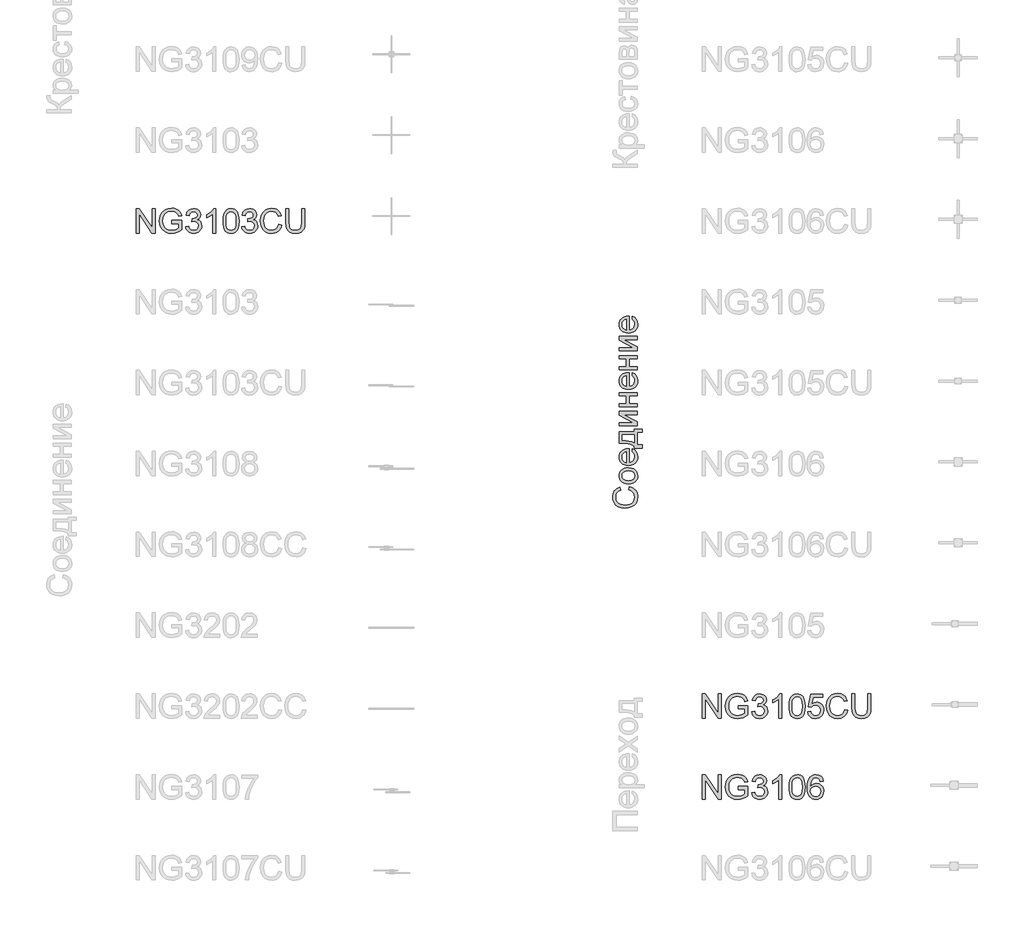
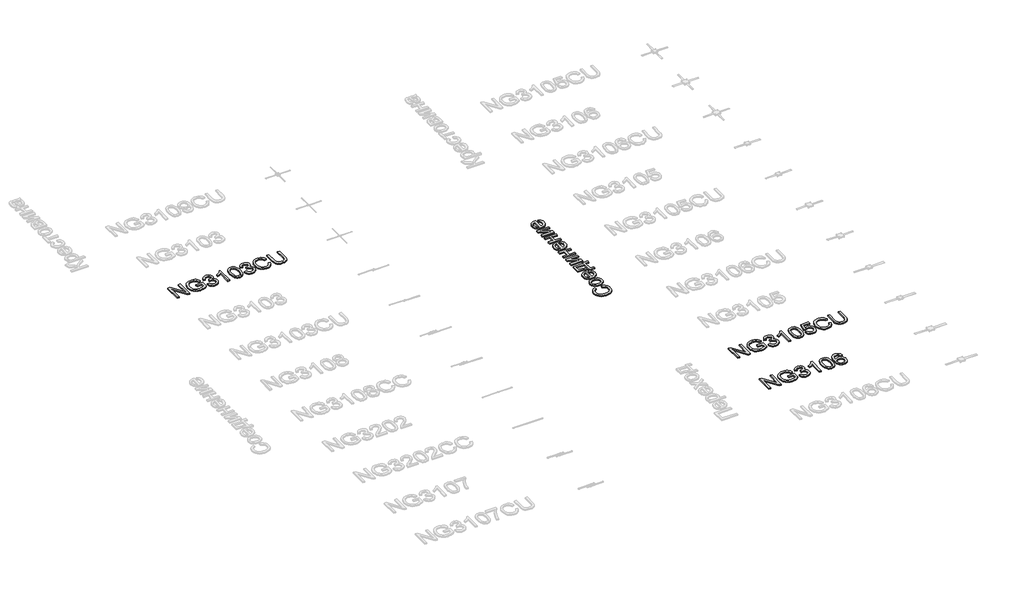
# One storey, part 112 of 124: 4 proxies.
"""IFC4 building model written with IfcOpenShell, lengths in millimetres."""

from ifc_helpers import new_model, si_unit, origin, origin_with_axes, place, context, project, spatial, polyline, outline, extrude, element, save

model = new_model("IFC4")

# Units and contexts
model_context = context("Model", 3, world=origin())
ifc_project = project(units=[si_unit("LENGTHUNIT", "METRE", prefix="MILLI")], contexts=[model_context])

# Site, building, storey
site = spatial("IfcSite", under=ifc_project)
building = spatial("IfcBuilding", under=site)
storey = spatial("IfcBuildingStorey", under=building, Name="Этаж 01", Elevation=0.0)

# Proxies
placement = place(None, origin())
element("IfcBuildingElementProxy", 1, Name="300", ObjectType="300", at=placement, inside=storey, context=model_context, shape_type="SweptSolid", body=[
    extrude(outline(polyline([(55790.0490062, -19696.5503235), (55799.7610909, -19658.8792072), (55823.1882762, -19666.3334161), (55843.65861, -19676.2616314), (55861.1720922, -19688.6638532), (55875.7287229, -19703.5400814), (55887.1721522, -19720.5546237), (55895.3460303, -19739.3717877), (55900.2503572, -19759.9915735), (55901.8851328, -19782.4139811), (55896.9371199, -19826.1091651), (55882.0930814, -19860.8096343), (55857.8680521, -19887.4075026), (55824.7770666, -19906.7948837), (55785.8735456, -19918.6314869), (55744.2109096, -19922.5770213), (55700.2674053, -19918.1164521), (55662.3203775, -19904.7347445), (55631.5746398, -19883.1308744), (55609.2350056, -19854.0038174), (55595.6325688, -19819.4596981), (55591.0984232, -19781.6046408), (55596.9661411, -19740.3006897), (55604.3007883, -19722.3319535), (55614.5692945, -19706.1520435), (55627.5003467, -19692.0276742), (55642.8226318, -19680.2255599), (55680.6409009, -19663.5880967), (55689.6172216, -19701.259213), (55662.1456336, -19714.3190238), (55643.3008784, -19732.1613006), (55632.4023743, -19755.0067725), (55628.7695396, -19783.0761687), (55632.7978474, -19815.4313902), (55644.8827709, -19842.0108644), (55663.7551173, -19862.1799947), (55688.1456936, -19875.3041849), (55715.7184491, -19882.505475), (55744.1373332, -19884.905905), (55778.93897, -19882.0640166), (55809.0317172, -19873.5383513), (55833.2659436, -19859.0070125), (55850.492018, -19838.1481034), (55860.7835169, -19813.1413248), (55864.2140165, -19786.1663775), (55859.5419151, -19754.721664), (55845.5256111, -19728.5192689), (55822.3122572, -19708.7364146), (55790.0490062, -19696.5503235)])), origin_with_axes(), (0.0, 0.0, 1.0), 20.0),
    extrude(outline(polyline([(55786.5173391, -19621.2080909), (55757.8547331, -19619.1709443), (55733.1560557, -19613.0595047), (55712.4213067, -19602.8737719), (55695.6504863, -19588.6137461), (55684.9313246, -19574.2571512), (55677.2747806, -19558.4106343), (55672.6808542, -19541.0741953), (55671.1495454, -19522.2478342), (55673.0142473, -19501.4648007), (55678.6083529, -19482.6729285), (55687.9318622, -19465.8722177), (55700.9847752, -19451.0626681), (55717.3256336, -19438.9754453), (55736.5129789, -19430.3417147), (55758.5468111, -19425.1614764), (55783.4271303, -19423.4347303), (55821.4845227, -19426.4881508), (55850.4552298, -19435.6484125), (55872.1510705, -19450.6488008), (55888.3838636, -19471.2226014), (55898.5098155, -19495.659163), (55901.8851328, -19522.2478342), (55900.0273287, -19543.3343703), (55894.4539165, -19562.3009864), (55885.1648961, -19579.1476825), (55872.1602676, -19593.8744586), (55855.6607601, -19605.8329227), (55835.8871028, -19614.3746828), (55812.8392958, -19619.4997388), (55786.5173391, -19621.2080909)]), holes=[polyline([(55786.4437627, -19583.5369746), (55820.5372266, -19579.1775729), (55844.8266353, -19566.099368), (55859.3671712, -19546.4176812), (55864.2140165, -19522.2478342), (55859.33958, -19498.1883517), (55844.7162707, -19478.5434531), (55820.1049652, -19465.4652482), (55785.2665403, -19461.1058466), (55752.1663578, -19465.4928393), (55728.2080429, -19478.6538177), (55713.667507, -19498.3263074), (55708.8206617, -19522.2478342), (55713.6491129, -19546.4176812), (55728.1344665, -19566.099368), (55752.3686929, -19579.1775729), (55786.4437627, -19583.5369746)])]), origin_with_axes(), (0.0, 0.0, 1.0), 20.0),
    extrude(outline(polyline([(55831.2517897, -19226.102828), (55835.9606792, -19189.1674757), (55863.7909522, -19202.4756069), (55884.594679, -19223.7115951), (55897.5625193, -19252.3971936), (55901.8851328, -19288.054156), (55900.0204309, -19311.4284583), (55894.4263253, -19332.2551777), (55885.102816, -19350.5343144), (55872.049903, -19366.2658682), (55855.6308697, -19378.9164103), (55836.2089996, -19387.9525118), (55813.7842927, -19393.3741727), (55788.3567491, -19395.181393), (55762.066982, -19393.3557786), (55738.8950148, -19387.8789354), (55718.8408475, -19378.7508634), (55701.9044802, -19365.9715626), (55688.4491962, -19350.2813955), (55678.8382791, -19332.4207246), (55673.0717288, -19312.38955), (55671.1495454, -19290.1878716), (55673.0671303, -19268.7012638), (55678.819885, -19249.2701967), (55688.4078095, -19231.8946702), (55701.8309038, -19216.5746844), (55718.7304829, -19204.0689958), (55738.747862, -19195.1363611), (55761.883041, -19189.7767803), (55788.1360199, -19187.9902533), (55798.2895629, -19188.2109825), (55798.2895629, -19357.5102767), (55826.4877179, -19350.9895684), (55847.2178683, -19335.8420272), (55859.9649794, -19313.9806396), (55864.2140165, -19287.318392), (55862.2458478, -19267.2688233), (55856.3413418, -19250.3830397), (55846.1326164, -19236.6610413), (55831.2517897, -19226.102828)]), holes=[polyline([(55760.6184466, -19357.5102767), (55760.6184466, -19225.6613696), (55740.7160307, -19230.7565353), (55726.4789975, -19240.7445314), (55713.2352456, -19262.7070866), (55708.8206617, -19290.3350244), (55712.3431318, -19315.7280791), (55722.9105421, -19336.724944), (55739.3824585, -19351.3206621), (55760.6184466, -19357.5102767)])]), origin_with_axes(), (0.0, 0.0, 1.0), 20.0),
    extrude(outline(polyline([(55675.8584349, -19117.3569103), (55675.8584349, -18976.0902241), (55859.5051269, -18976.0902241), (55859.5051269, -18947.8368869), (55958.3918072, -18947.8368869), (55958.3918072, -18985.5080032), (55897.1762432, -18985.5080032), (55897.1762432, -19140.901358), (55958.3918072, -19140.901358), (55958.3918072, -19178.5724743), (55859.5051269, -19178.5724743), (55859.5051269, -19155.0280266), (55828.5754482, -19137.9123167), (55787.6577733, -19125.9285608), (55736.7521022, -19119.0767586), (55675.8584349, -19117.3569103)]), holes=[polyline([(55713.5295512, -19084.3946835), (55759.6527564, -19087.4848923), (55799.3564207, -19093.2238514), (55832.6405442, -19101.6115609), (55859.5051269, -19112.6480207), (55859.5051269, -19013.7613404), (55713.5295512, -19013.7613404), (55713.5295512, -19084.3946835)])]), origin_with_axes(), (0.0, 0.0, 1.0), 20.0),
    extrude(outline(polyline([(55675.8584349, -18905.456881), (55675.8584349, -18867.7857647), (55844.6426943, -18867.7857647), (55675.8584349, -18775.2266547), (55675.8584349, -18726.5190786), (55897.1762432, -18726.5190786), (55897.1762432, -18764.1901949), (55729.4220534, -18764.1901949), (55897.1762432, -18856.1606937), (55897.1762432, -18905.456881), (55675.8584349, -18905.456881)])), origin_with_axes(), (0.0, 0.0, 1.0), 20.0),
    extrude(outline(polyline([(55675.8584349, -18670.0124041), (55675.8584349, -18632.3412878), (55760.6184466, -18632.3412878), (55760.6184466, -18533.4546075), (55675.8584349, -18533.4546075), (55675.8584349, -18495.7834912), (55897.1762432, -18495.7834912), (55897.1762432, -18533.4546075), (55798.2895629, -18533.4546075), (55798.2895629, -18632.3412878), (55897.1762432, -18632.3412878), (55897.1762432, -18670.0124041), (55675.8584349, -18670.0124041)])), origin_with_axes(), (0.0, 0.0, 1.0), 20.0),
    extrude(outline(polyline([(55831.2517897, -18284.3249204), (55835.9606792, -18247.3895681), (55863.7909522, -18260.6976992), (55884.594679, -18281.9336874), (55897.5625193, -18310.619286), (55901.8851328, -18346.2762484), (55900.0204309, -18369.6505506), (55894.4263253, -18390.4772701), (55885.102816, -18408.7564067), (55872.049903, -18424.4879605), (55855.6308697, -18437.1385027), (55836.2089996, -18446.1746042), (55813.7842927, -18451.5962651), (55788.3567491, -18453.4034854), (55762.066982, -18451.577871), (55738.8950148, -18446.1010278), (55718.8408475, -18436.9729558), (55701.9044802, -18424.193655), (55688.4491962, -18408.5034879), (55678.8382791, -18390.642817), (55673.0717288, -18370.6116424), (55671.1495454, -18348.4099639), (55673.0671303, -18326.9233562), (55678.819885, -18307.492289), (55688.4078095, -18290.1167625), (55701.8309038, -18274.7967767), (55718.7304829, -18262.2910881), (55738.747862, -18253.3584534), (55761.883041, -18247.9988726), (55788.1360199, -18246.2123457), (55798.2895629, -18246.4330749), (55798.2895629, -18415.7323691), (55826.4877179, -18409.2116607), (55847.2178683, -18394.0641195), (55859.9649794, -18372.202732), (55864.2140165, -18345.5404844), (55862.2458478, -18325.4909156), (55856.3413418, -18308.6051321), (55846.1326164, -18294.8831336), (55831.2517897, -18284.3249204)]), holes=[polyline([(55760.6184466, -18415.7323691), (55760.6184466, -18283.883462), (55740.7160307, -18288.9786276), (55726.4789975, -18298.9666238), (55713.2352456, -18320.9291789), (55708.8206617, -18348.5571167), (55712.3431318, -18373.9501715), (55722.9105421, -18394.9470363), (55739.3824585, -18409.5427545), (55760.6184466, -18415.7323691)])]), origin_with_axes(), (0.0, 0.0, 1.0), 20.0),
    extrude(outline(polyline([(55675.8584349, -18208.5412294), (55675.8584349, -18170.8701131), (55760.6184466, -18170.8701131), (55760.6184466, -18071.9834328), (55675.8584349, -18071.9834328), (55675.8584349, -18034.3123165), (55897.1762432, -18034.3123165), (55897.1762432, -18071.9834328), (55798.2895629, -18071.9834328), (55798.2895629, -18170.8701131), (55897.1762432, -18170.8701131), (55897.1762432, -18208.5412294), (55675.8584349, -18208.5412294)])), origin_with_axes(), (0.0, 0.0, 1.0), 20.0),
    extrude(outline(polyline([(55675.8584349, -17977.805642), (55675.8584349, -17940.1345257), (55844.6426943, -17940.1345257), (55675.8584349, -17847.5754157), (55675.8584349, -17798.8678395), (55897.1762432, -17798.8678395), (55897.1762432, -17836.5389559), (55729.4220534, -17836.5389559), (55897.1762432, -17928.5094546), (55897.1762432, -17977.805642), (55675.8584349, -17977.805642)])), origin_with_axes(), (0.0, 0.0, 1.0), 20.0),
    extrude(outline(polyline([(55831.2517897, -17587.4092687), (55835.9606792, -17550.4739164), (55863.7909522, -17563.7820476), (55884.594679, -17585.0180358), (55897.5625193, -17613.7036343), (55901.8851328, -17649.3605967), (55900.0204309, -17672.734899), (55894.4263253, -17693.5616184), (55885.102816, -17711.8407551), (55872.049903, -17727.5723089), (55855.6308697, -17740.222851), (55836.2089996, -17749.2589525), (55813.7842927, -17754.6806134), (55788.3567491, -17756.4878337), (55762.066982, -17754.6622193), (55738.8950148, -17749.1853761), (55718.8408475, -17740.0573041), (55701.9044802, -17727.2780033), (55688.4491962, -17711.5878362), (55678.8382791, -17693.7271653), (55673.0717288, -17673.6959907), (55671.1495454, -17651.4943123), (55673.0671303, -17630.0077045), (55678.819885, -17610.5766374), (55688.4078095, -17593.2011109), (55701.8309038, -17577.881125), (55718.7304829, -17565.3754365), (55738.747862, -17556.4428018), (55761.883041, -17551.083221), (55788.1360199, -17549.296694), (55798.2895629, -17549.5174232), (55798.2895629, -17718.8167174), (55826.4877179, -17712.296009), (55847.2178683, -17697.1484679), (55859.9649794, -17675.2870803), (55864.2140165, -17648.6248327), (55862.2458478, -17628.575264), (55856.3413418, -17611.6894804), (55846.1326164, -17597.967482), (55831.2517897, -17587.4092687)]), holes=[polyline([(55760.6184466, -17718.8167174), (55760.6184466, -17586.9678103), (55740.7160307, -17592.062976), (55726.4789975, -17602.0509721), (55713.2352456, -17624.0135272), (55708.8206617, -17651.6414651), (55712.3431318, -17677.0345198), (55722.9105421, -17698.0313847), (55739.3824585, -17712.6271028), (55760.6184466, -17718.8167174)])]), origin_with_axes(), (0.0, 0.0, 1.0), 20.0),
])
element("IfcBuildingElementProxy", 2, Name="300", ObjectType="300", at=placement, inside=storey, context=model_context, shape_type="SweptSolid", body=[
    extrude(outline(polyline([(49699.8220677, -16519.5141033), (49699.8220677, -16218.1451728), (49740.1419344, -16218.1451728), (49897.5954283, -16456.9005877), (49897.5954283, -16218.1451728), (49935.2665446, -16218.1451728), (49935.2665446, -16519.5141033), (49894.9466779, -16519.5141033), (49737.493184, -16280.685112), (49737.493184, -16519.5141033), (49699.8220677, -16519.5141033)])), origin_with_axes(), (0.0, 0.0, 1.0), 20.0),
    extrude(outline(polyline([(50142.4576843, -16401.7918648), (50142.4576843, -16364.1207485), (50264.8888123, -16364.1207485), (50264.8888123, -16476.7662154), (50235.1363559, -16497.4595776), (50204.4458005, -16512.3036162), (50172.8907223, -16521.2431486), (50140.5446979, -16524.2229928), (50098.2842537, -16519.4865121), (50060.0889056, -16505.27707), (50028.3590835, -16482.0913073), (50005.4952175, -16450.4258646), (49991.6720515, -16412.4420486), (49987.0643295, -16370.301166), (49991.6536574, -16327.8567808), (50005.4216411, -16288.3738457), (50027.7980634, -16255.2552691), (50058.2127074, -16231.9039594), (50095.2584243, -16218.0532023), (50137.5280656, -16213.4362833), (50168.5589118, -16216.1126248), (50196.4627612, -16224.1416493), (50219.9612236, -16236.9439428), (50237.7759092, -16253.9400909), (50250.9552817, -16275.9486313), (50260.5478047, -16303.7881013), (50225.8197444, -16313.5737624), (50218.0666313, -16293.7173317), (50208.6396552, -16278.7353374), (50196.1684556, -16267.4413602), (50179.282672, -16258.6489805), (50159.1503298, -16252.9927948), (50136.9394544, -16251.1073996), (50110.9393944, -16253.1399476), (50088.7101248, -16259.2375917), (50070.3344191, -16268.6369766), (50055.8950508, -16280.5747474), (50036.5076697, -16309.6006368), (50027.6785018, -16338.037915), (50024.7354458, -16368.7560616), (50028.27631, -16404.780906), (50038.8989026, -16434.4229978), (50056.2813269, -16457.4708048), (50080.1016861, -16473.7127949), (50107.9779443, -16483.3421061), (50137.5280656, -16486.5518765), (50163.6200961, -16484.1330524), (50189.0683331, -16476.87658), (50211.1688439, -16466.8793868), (50227.217696, -16456.2384001), (50227.217696, -16401.7918648), (50142.4576843, -16401.7918648)])), origin_with_axes(), (0.0, 0.0, 1.0), 20.0),
    extrude(outline(polyline([(50311.9777077, -16439.4629811), (50349.648824, -16434.7540916), (50358.0825187, -16458.427298), (50370.4341567, -16474.4117707), (50387.3107432, -16483.51685), (50409.3192836, -16486.5518765), (50435.1445997, -16482.3764158), (50455.0838038, -16469.8500339), (50467.8309149, -16451.1616286), (50472.079952, -16428.5000977), (50467.8677031, -16406.988198), (50455.2309566, -16389.5413944), (50436.1010928, -16377.9807027), (50412.4094924, -16374.1271388), (50385.9955651, -16378.2474171), (50390.1894198, -16340.5763008), (50396.2226846, -16341.0177592), (50418.792245, -16338.3138265), (50438.9705724, -16330.2020285), (50453.2076056, -16316.4800301), (50457.9532834, -16296.9454962), (50454.5135867, -16280.6759149), (50444.1944967, -16267.4781484), (50428.4491473, -16258.7317539), (50408.7306724, -16255.8162891), (50388.9754093, -16258.7593451), (50372.8253897, -16267.588513), (50361.0347717, -16282.3037928), (50354.3577135, -16302.9051845), (50316.6865972, -16298.196295), (50327.7782394, -16264.3695455), (50347.5151084, -16239.1144465), (50374.5176468, -16223.3874912), (50407.4062972, -16218.1451728), (50431.0887007, -16220.7295438), (50452.8397236, -16228.4826569), (50471.1786411, -16240.7147332), (50484.624728, -16256.7359941), (50492.8744817, -16275.1944732), (50495.6243997, -16294.7382042), (50493.0124375, -16312.948363), (50485.176551, -16329.4662646), (50472.2271048, -16343.5377509), (50454.2744634, -16354.4086638), (50477.8556993, -16363.9368075), (50495.3300941, -16380.1604035), (50506.1458247, -16402.196535), (50509.7510683, -16429.1622852), (50507.9484465, -16448.2737549), (50502.5405812, -16465.8769084), (50493.5274723, -16481.9717457), (50480.9091199, -16496.5582668), (50465.536251, -16508.6615844), (50448.2595928, -16517.3068113), (50429.0791453, -16522.4939474), (50407.9949084, -16524.2229928), (50388.9386211, -16522.7468663), (50371.5745909, -16518.3184868), (50355.9028179, -16510.9378542), (50341.9233021, -16500.6049687), (50330.201662, -16487.9268354), (50321.3035162, -16473.5104598), (50315.2288648, -16457.3558417), (50311.9777077, -16439.4629811)])), origin_with_axes(), (0.0, 0.0, 1.0), 20.0),
    extrude(outline(polyline([(50683.9799812, -16519.5141033), (50646.3088649, -16519.5141033), (50646.3088649, -16284.6582375), (50610.6243114, -16310.0788834), (50570.9666323, -16329.0983826), (50570.9666323, -16293.4874054), (50600.5535417, -16277.3925681), (50626.1857197, -16258.2443103), (50646.3916383, -16237.8820419), (50659.6997695, -16218.1451728), (50683.9799812, -16218.1451728), (50683.9799812, -16519.5141033)])), origin_with_axes(), (0.0, 0.0, 1.0), 20.0),
    extrude(outline(polyline([(50773.4488824, -16371.2576592), (50776.2171944, -16323.0191326), (50784.5221305, -16284.5478729), (50798.2809171, -16255.2552691), (50817.4107808, -16234.5527098), (50842.0496775, -16222.2470571), (50872.3355627, -16218.1451728), (50895.5489166, -16220.573194), (50916.3342493, -16227.8572575), (50933.7166736, -16239.7122548), (50946.7213021, -16255.8530773), (50956.5437514, -16276.1417694), (50964.3796379, -16300.4403751), (50969.5115917, -16331.2964775), (50971.222243, -16371.2576592), (50968.4815222, -16419.2202743), (50960.2593596, -16457.5995635), (50946.5833464, -16486.9197585), (50927.4810738, -16507.7050912), (50902.7869949, -16520.0935174), (50872.3355627, -16524.2229928), (50851.5870182, -16522.4295681), (50833.1929184, -16517.0492939), (50817.1532634, -16508.0821703), (50803.4680532, -16495.5281972), (50790.334666, -16472.8344766), (50780.9536751, -16444.5581467), (50775.3250806, -16410.6992076), (50773.4488824, -16371.2576592)]), holes=[polyline([(50811.1199987, -16371.1840828), (50815.5345827, -16430.4406752), (50821.0528126, -16450.7086739), (50828.7783345, -16464.7364742), (50848.4968094, -16481.0980259), (50872.3355627, -16486.5518765), (50896.174316, -16481.0796318), (50915.892791, -16464.6628978), (50923.6183128, -16450.6121048), (50929.1365428, -16430.3487047), (50933.5511267, -16371.1840828), (50929.2836956, -16313.2610627), (50923.9494066, -16293.0597426), (50916.4814021, -16278.6985492), (50896.7997154, -16261.5368541), (50871.8941043, -16255.8162891), (50848.3128684, -16260.8562725), (50829.3669457, -16275.9762225), (50821.3839064, -16291.6112072), (50815.6817355, -16312.6908456), (50811.1199987, -16371.1840828)])]), origin_with_axes(), (0.0, 0.0, 1.0), 20.0),
    extrude(outline(polyline([(51004.1844698, -16439.4629811), (51041.8555861, -16434.7540916), (51050.2892808, -16458.427298), (51062.6409188, -16474.4117707), (51079.5175054, -16483.51685), (51101.5260457, -16486.5518765), (51127.3513618, -16482.3764158), (51147.2905659, -16469.8500339), (51160.037677, -16451.1616286), (51164.2867141, -16428.5000977), (51160.0744652, -16406.988198), (51147.4377187, -16389.5413944), (51128.307855, -16377.9807027), (51104.6162545, -16374.1271388), (51078.2023272, -16378.2474171), (51082.396182, -16340.5763008), (51088.4294467, -16341.0177592), (51110.9990071, -16338.3138265), (51131.1773345, -16330.2020285), (51145.4143677, -16316.4800301), (51150.1600455, -16296.9454962), (51146.7203488, -16280.6759149), (51136.4012589, -16267.4781484), (51120.6559095, -16258.7317539), (51100.9374345, -16255.8162891), (51081.1821714, -16258.7593451), (51065.0321518, -16267.588513), (51053.2415338, -16282.3037928), (51046.5644756, -16302.9051845), (51008.8933593, -16298.196295), (51019.9850015, -16264.3695455), (51039.7218705, -16239.1144465), (51066.724409, -16223.3874912), (51099.6130593, -16218.1451728), (51123.2954628, -16220.7295438), (51145.0464857, -16228.4826569), (51163.3854032, -16240.7147332), (51176.8314901, -16256.7359941), (51185.0812439, -16275.1944732), (51187.8311618, -16294.7382042), (51185.2191996, -16312.948363), (51177.3833131, -16329.4662646), (51164.4338669, -16343.5377509), (51146.4812255, -16354.4086638), (51170.0624614, -16363.9368075), (51187.5368562, -16380.1604035), (51198.3525868, -16402.196535), (51201.9578304, -16429.1622852), (51200.1552086, -16448.2737549), (51194.7473433, -16465.8769084), (51185.7342344, -16481.9717457), (51173.115882, -16496.5582668), (51157.7430131, -16508.6615844), (51140.4663549, -16517.3068113), (51121.2859074, -16522.4939474), (51100.2016705, -16524.2229928), (51081.1453832, -16522.7468663), (51063.781353, -16518.3184868), (51048.10958, -16510.9378542), (51034.1300642, -16500.6049687), (51022.4084241, -16487.9268354), (51013.5102784, -16473.5104598), (51007.4356269, -16457.3558417), (51004.1844698, -16439.4629811)])), origin_with_axes(), (0.0, 0.0, 1.0), 20.0),
    extrude(outline(polyline([(51460.946755, -16412.3868663), (51498.6178713, -16422.0989509), (51491.1636624, -16445.5261362), (51481.235447, -16465.99647), (51468.8332253, -16483.5099522), (51453.9569971, -16498.0665829), (51436.9424548, -16509.5100123), (51418.1252908, -16517.6838903), (51397.5055049, -16522.5882172), (51375.0830973, -16524.2229928), (51331.3879134, -16519.27498), (51296.6874442, -16504.4309415), (51270.0895759, -16480.2059121), (51250.7021948, -16447.1149266), (51238.8655916, -16408.2114056), (51234.9200572, -16366.5487697), (51239.3806264, -16322.6052653), (51252.7623339, -16284.6582375), (51274.3662041, -16253.9124998), (51303.4932611, -16231.5728656), (51338.0373804, -16217.9704289), (51375.8924377, -16213.4362833), (51417.1963887, -16219.3040011), (51435.1651249, -16226.6386484), (51451.3450349, -16236.9071546), (51465.4694043, -16249.8382067), (51477.2715185, -16265.1604918), (51493.9089818, -16302.9787609), (51456.2378655, -16311.9550816), (51443.1780546, -16284.4834936), (51425.3357779, -16265.6387384), (51402.490306, -16254.7402343), (51374.4209097, -16251.1073996), (51342.0656883, -16255.1357074), (51315.4862141, -16267.220631), (51295.3170837, -16286.0929773), (51282.1928935, -16310.4835536), (51274.9916035, -16338.0563091), (51272.5911735, -16366.4751933), (51275.4330619, -16401.27683), (51283.9587271, -16431.3695772), (51298.4900659, -16455.6038036), (51319.3489751, -16472.8298781), (51344.3557537, -16483.1213769), (51371.330701, -16486.5518765), (51402.7754145, -16481.8797752), (51428.9778096, -16467.8634711), (51448.7606639, -16444.6501172), (51460.946755, -16412.3868663)])), origin_with_axes(), (0.0, 0.0, 1.0), 20.0),
    extrude(outline(polyline([(51748.1890168, -16218.1451728), (51785.8601331, -16218.1451728), (51785.8601331, -16392.0062037), (51783.3033533, -16432.7215435), (51775.6330137, -16464.0742866), (51761.30401, -16488.2625278), (51738.7712378, -16507.484362), (51707.9795148, -16520.0383351), (51668.8736587, -16524.2229928), (51630.6231282, -16520.580961), (51600.0429374, -16509.6548658), (51577.1238891, -16491.8217861), (51561.8567863, -16467.4588009), (51553.2759387, -16434.7816827), (51550.4156562, -16392.0062037), (51550.4156562, -16218.1451728), (51588.0867725, -16218.1451728), (51588.0867725, -16390.6818285), (51589.9445766, -16424.5361692), (51595.5179888, -16448.108208), (51605.6163496, -16464.4329715), (51621.0489993, -16476.5454862), (51641.1721444, -16484.0502789), (51665.3419915, -16486.5518765), (51703.6569013, -16481.6038637), (51717.9997006, -16475.4188476), (51729.1327295, -16466.7598252), (51737.4698552, -16454.5829311), (51743.424945, -16437.8443003), (51748.1890168, -16390.6818285), (51748.1890168, -16218.1451728)])), origin_with_axes(), (0.0, 0.0, 1.0), 20.0),
])
element("IfcBuildingElementProxy", 3, Name="300", ObjectType="300", at=placement, inside=storey, context=model_context, shape_type="SweptSolid", body=[
    extrude(outline(polyline([(56699.8220677, -22519.5141033), (56699.8220677, -22218.1451728), (56740.1419344, -22218.1451728), (56897.5954283, -22456.9005877), (56897.5954283, -22218.1451728), (56935.2665446, -22218.1451728), (56935.2665446, -22519.5141033), (56894.9466779, -22519.5141033), (56737.493184, -22280.685112), (56737.493184, -22519.5141033), (56699.8220677, -22519.5141033)])), origin_with_axes(), (0.0, 0.0, 1.0), 20.0),
    extrude(outline(polyline([(57142.4576843, -22401.7918648), (57142.4576843, -22364.1207485), (57264.8888123, -22364.1207485), (57264.8888123, -22476.7662154), (57235.1363559, -22497.4595776), (57204.4458005, -22512.3036162), (57172.8907223, -22521.2431486), (57140.5446979, -22524.2229928), (57098.2842537, -22519.4865121), (57060.0889056, -22505.27707), (57028.3590835, -22482.0913073), (57005.4952175, -22450.4258646), (56991.6720515, -22412.4420486), (56987.0643295, -22370.301166), (56991.6536574, -22327.8567808), (57005.4216411, -22288.3738457), (57027.7980634, -22255.2552691), (57058.2127074, -22231.9039594), (57095.2584243, -22218.0532023), (57137.5280656, -22213.4362833), (57168.5589118, -22216.1126248), (57196.4627612, -22224.1416493), (57219.9612236, -22236.9439428), (57237.7759092, -22253.9400909), (57250.9552817, -22275.9486313), (57260.5478047, -22303.7881013), (57225.8197444, -22313.5737624), (57218.0666313, -22293.7173317), (57208.6396552, -22278.7353374), (57196.1684556, -22267.4413602), (57179.282672, -22258.6489805), (57159.1503298, -22252.9927948), (57136.9394544, -22251.1073996), (57110.9393944, -22253.1399476), (57088.7101248, -22259.2375917), (57070.3344191, -22268.6369766), (57055.8950508, -22280.5747474), (57036.5076697, -22309.6006368), (57027.6785018, -22338.037915), (57024.7354458, -22368.7560616), (57028.27631, -22404.780906), (57038.8989026, -22434.4229978), (57056.2813269, -22457.4708048), (57080.1016861, -22473.7127949), (57107.9779443, -22483.3421061), (57137.5280656, -22486.5518765), (57163.6200961, -22484.1330524), (57189.0683331, -22476.87658), (57211.1688439, -22466.8793868), (57227.217696, -22456.2384001), (57227.217696, -22401.7918648), (57142.4576843, -22401.7918648)])), origin_with_axes(), (0.0, 0.0, 1.0), 20.0),
    extrude(outline(polyline([(57311.9777077, -22439.4629811), (57349.648824, -22434.7540916), (57358.0825187, -22458.427298), (57370.4341567, -22474.4117707), (57387.3107432, -22483.51685), (57409.3192836, -22486.5518765), (57435.1445997, -22482.3764158), (57455.0838038, -22469.8500339), (57467.8309149, -22451.1616286), (57472.079952, -22428.5000977), (57467.8677031, -22406.988198), (57455.2309566, -22389.5413944), (57436.1010928, -22377.9807027), (57412.4094924, -22374.1271388), (57385.9955651, -22378.2474171), (57390.1894198, -22340.5763008), (57396.2226846, -22341.0177592), (57418.792245, -22338.3138265), (57438.9705724, -22330.2020285), (57453.2076056, -22316.4800301), (57457.9532834, -22296.9454962), (57454.5135867, -22280.6759149), (57444.1944967, -22267.4781484), (57428.4491473, -22258.7317539), (57408.7306724, -22255.8162891), (57388.9754093, -22258.7593451), (57372.8253897, -22267.588513), (57361.0347717, -22282.3037928), (57354.3577135, -22302.9051845), (57316.6865972, -22298.196295), (57327.7782394, -22264.3695455), (57347.5151084, -22239.1144465), (57374.5176468, -22223.3874912), (57407.4062972, -22218.1451728), (57431.0887007, -22220.7295438), (57452.8397236, -22228.4826569), (57471.1786411, -22240.7147332), (57484.624728, -22256.7359941), (57492.8744817, -22275.1944732), (57495.6243997, -22294.7382042), (57493.0124375, -22312.948363), (57485.176551, -22329.4662646), (57472.2271048, -22343.5377509), (57454.2744634, -22354.4086638), (57477.8556993, -22363.9368075), (57495.3300941, -22380.1604035), (57506.1458247, -22402.196535), (57509.7510683, -22429.1622852), (57507.9484465, -22448.2737549), (57502.5405812, -22465.8769084), (57493.5274723, -22481.9717457), (57480.9091199, -22496.5582668), (57465.536251, -22508.6615844), (57448.2595928, -22517.3068113), (57429.0791453, -22522.4939474), (57407.9949084, -22524.2229928), (57388.9386211, -22522.7468663), (57371.5745909, -22518.3184868), (57355.9028179, -22510.9378542), (57341.9233021, -22500.6049687), (57330.201662, -22487.9268354), (57321.3035162, -22473.5104598), (57315.2288648, -22457.3558417), (57311.9777077, -22439.4629811)])), origin_with_axes(), (0.0, 0.0, 1.0), 20.0),
    extrude(outline(polyline([(57683.9799812, -22519.5141033), (57646.3088649, -22519.5141033), (57646.3088649, -22284.6582375), (57610.6243114, -22310.0788834), (57570.9666323, -22329.0983826), (57570.9666323, -22293.4874054), (57600.5535417, -22277.3925681), (57626.1857197, -22258.2443103), (57646.3916383, -22237.8820419), (57659.6997695, -22218.1451728), (57683.9799812, -22218.1451728), (57683.9799812, -22519.5141033)])), origin_with_axes(), (0.0, 0.0, 1.0), 20.0),
    extrude(outline(polyline([(57773.4488824, -22371.2576592), (57776.2171944, -22323.0191326), (57784.5221305, -22284.5478729), (57798.2809171, -22255.2552691), (57817.4107808, -22234.5527098), (57842.0496775, -22222.2470571), (57872.3355627, -22218.1451728), (57895.5489166, -22220.573194), (57916.3342493, -22227.8572575), (57933.7166736, -22239.7122548), (57946.7213021, -22255.8530773), (57956.5437514, -22276.1417694), (57964.3796379, -22300.4403751), (57969.5115917, -22331.2964775), (57971.222243, -22371.2576592), (57968.4815222, -22419.2202743), (57960.2593596, -22457.5995635), (57946.5833464, -22486.9197585), (57927.4810738, -22507.7050912), (57902.7869949, -22520.0935174), (57872.3355627, -22524.2229928), (57851.5870182, -22522.4295681), (57833.1929184, -22517.0492939), (57817.1532634, -22508.0821703), (57803.4680532, -22495.5281972), (57790.334666, -22472.8344766), (57780.9536751, -22444.5581467), (57775.3250806, -22410.6992076), (57773.4488824, -22371.2576592)]), holes=[polyline([(57811.1199987, -22371.1840828), (57815.5345827, -22430.4406752), (57821.0528126, -22450.7086739), (57828.7783345, -22464.7364742), (57848.4968094, -22481.0980259), (57872.3355627, -22486.5518765), (57896.174316, -22481.0796318), (57915.892791, -22464.6628978), (57923.6183128, -22450.6121048), (57929.1365428, -22430.3487047), (57933.5511267, -22371.1840828), (57929.2836956, -22313.2610627), (57923.9494066, -22293.0597426), (57916.4814021, -22278.6985492), (57896.7997154, -22261.5368541), (57871.8941043, -22255.8162891), (57848.3128684, -22260.8562725), (57829.3669457, -22275.9762225), (57821.3839064, -22291.6112072), (57815.6817355, -22312.6908456), (57811.1199987, -22371.1840828)])]), origin_with_axes(), (0.0, 0.0, 1.0), 20.0),
    extrude(outline(polyline([(58004.1844698, -22439.4629811), (58041.8555861, -22434.7540916), (58048.7717676, -22457.3696372), (58060.838297, -22473.5656421), (58077.9999921, -22483.3053179), (58100.2016705, -22486.5518765), (58127.204209, -22482.036125), (58147.4377187, -22468.4888705), (58160.0744652, -22447.4736116), (58164.2867141, -22420.5538466), (58160.3411797, -22395.2067771), (58148.5045765, -22375.8193959), (58128.684934, -22363.5137432), (58100.7902817, -22359.411859), (58082.5157436, -22361.0489338), (58067.7176904, -22365.9601585), (58046.5644756, -22382.9563067), (58008.8933593, -22378.2474171), (58041.8555861, -22222.8540624), (58187.8311618, -22222.8540624), (58187.8311618, -22260.5251787), (58072.3162153, -22260.5251787), (58056.2029839, -22343.5193568), (58083.1135519, -22327.1853962), (58111.3117068, -22321.7407427), (58129.657522, -22323.4284013), (58146.5088167, -22328.4913773), (58161.8655907, -22336.9296705), (58175.7278441, -22348.7432811), (58187.2034631, -22363.2102406), (58195.4003338, -22379.6085805), (58200.3184563, -22397.9383009), (58201.9578304, -22418.1994018), (58196.0533244, -22455.8705181), (58188.6726918, -22472.6643312), (58178.3398063, -22488.0969809), (58162.6864274, -22503.9021111), (58144.4210864, -22515.1914898), (58123.5437831, -22521.9651171), (58100.0545177, -22524.2229928), (58063.0547861, -22518.4196543), (58047.3761153, -22511.1654812), (58033.5782412, -22501.0096389), (58022.0980237, -22488.4579651), (58013.3723226, -22474.0162975), (58004.1844698, -22439.4629811)])), origin_with_axes(), (0.0, 0.0, 1.0), 20.0),
    extrude(outline(polyline([(58460.946755, -22412.3868663), (58498.6178713, -22422.0989509), (58491.1636624, -22445.5261362), (58481.235447, -22465.99647), (58468.8332253, -22483.5099522), (58453.9569971, -22498.0665829), (58436.9424548, -22509.5100123), (58418.1252908, -22517.6838903), (58397.5055049, -22522.5882172), (58375.0830973, -22524.2229928), (58331.3879134, -22519.27498), (58296.6874442, -22504.4309415), (58270.0895759, -22480.2059121), (58250.7021948, -22447.1149266), (58238.8655916, -22408.2114056), (58234.9200572, -22366.5487697), (58239.3806264, -22322.6052653), (58252.7623339, -22284.6582375), (58274.3662041, -22253.9124998), (58303.4932611, -22231.5728656), (58338.0373804, -22217.9704289), (58375.8924377, -22213.4362833), (58417.1963887, -22219.3040011), (58435.1651249, -22226.6386484), (58451.3450349, -22236.9071546), (58465.4694043, -22249.8382067), (58477.2715185, -22265.1604918), (58493.9089818, -22302.9787609), (58456.2378655, -22311.9550816), (58443.1780546, -22284.4834936), (58425.3357779, -22265.6387384), (58402.490306, -22254.7402343), (58374.4209097, -22251.1073996), (58342.0656883, -22255.1357074), (58315.4862141, -22267.220631), (58295.3170837, -22286.0929773), (58282.1928935, -22310.4835536), (58274.9916035, -22338.0563091), (58272.5911735, -22366.4751933), (58275.4330619, -22401.27683), (58283.9587271, -22431.3695772), (58298.4900659, -22455.6038036), (58319.3489751, -22472.8298781), (58344.3557537, -22483.1213769), (58371.330701, -22486.5518765), (58402.7754145, -22481.8797752), (58428.9778096, -22467.8634711), (58448.7606639, -22444.6501172), (58460.946755, -22412.3868663)])), origin_with_axes(), (0.0, 0.0, 1.0), 20.0),
    extrude(outline(polyline([(58748.1890168, -22218.1451728), (58785.8601331, -22218.1451728), (58785.8601331, -22392.0062037), (58783.3033533, -22432.7215435), (58775.6330137, -22464.0742866), (58761.30401, -22488.2625278), (58738.7712378, -22507.484362), (58707.9795148, -22520.0383351), (58668.8736587, -22524.2229928), (58630.6231282, -22520.580961), (58600.0429374, -22509.6548658), (58577.1238891, -22491.8217861), (58561.8567863, -22467.4588009), (58553.2759387, -22434.7816827), (58550.4156562, -22392.0062037), (58550.4156562, -22218.1451728), (58588.0867725, -22218.1451728), (58588.0867725, -22390.6818285), (58589.9445766, -22424.5361692), (58595.5179888, -22448.108208), (58605.6163496, -22464.4329715), (58621.0489993, -22476.5454862), (58641.1721444, -22484.0502789), (58665.3419915, -22486.5518765), (58703.6569013, -22481.6038637), (58717.9997006, -22475.4188476), (58729.1327295, -22466.7598252), (58737.4698552, -22454.5829311), (58743.424945, -22437.8443003), (58748.1890168, -22390.6818285), (58748.1890168, -22218.1451728)])), origin_with_axes(), (0.0, 0.0, 1.0), 20.0),
])
element("IfcBuildingElementProxy", 4, Name="300", ObjectType="300", at=placement, inside=storey, context=model_context, shape_type="SweptSolid", body=[
    extrude(outline(polyline([(56699.8220677, -23519.5141033), (56699.8220677, -23218.1451728), (56740.1419344, -23218.1451728), (56897.5954283, -23456.9005877), (56897.5954283, -23218.1451728), (56935.2665446, -23218.1451728), (56935.2665446, -23519.5141033), (56894.9466779, -23519.5141033), (56737.493184, -23280.685112), (56737.493184, -23519.5141033), (56699.8220677, -23519.5141033)])), origin_with_axes(), (0.0, 0.0, 1.0), 20.0),
    extrude(outline(polyline([(57142.4576843, -23401.7918648), (57142.4576843, -23364.1207485), (57264.8888123, -23364.1207485), (57264.8888123, -23476.7662154), (57235.1363559, -23497.4595776), (57204.4458005, -23512.3036162), (57172.8907223, -23521.2431486), (57140.5446979, -23524.2229928), (57098.2842537, -23519.4865121), (57060.0889056, -23505.27707), (57028.3590835, -23482.0913073), (57005.4952175, -23450.4258646), (56991.6720515, -23412.4420486), (56987.0643295, -23370.301166), (56991.6536574, -23327.8567808), (57005.4216411, -23288.3738457), (57027.7980634, -23255.2552691), (57058.2127074, -23231.9039594), (57095.2584243, -23218.0532023), (57137.5280656, -23213.4362833), (57168.5589118, -23216.1126248), (57196.4627612, -23224.1416493), (57219.9612236, -23236.9439428), (57237.7759092, -23253.9400909), (57250.9552817, -23275.9486313), (57260.5478047, -23303.7881013), (57225.8197444, -23313.5737624), (57218.0666313, -23293.7173317), (57208.6396552, -23278.7353374), (57196.1684556, -23267.4413602), (57179.282672, -23258.6489805), (57159.1503298, -23252.9927948), (57136.9394544, -23251.1073996), (57110.9393944, -23253.1399476), (57088.7101248, -23259.2375917), (57070.3344191, -23268.6369766), (57055.8950508, -23280.5747474), (57036.5076697, -23309.6006368), (57027.6785018, -23338.037915), (57024.7354458, -23368.7560616), (57028.27631, -23404.780906), (57038.8989026, -23434.4229978), (57056.2813269, -23457.4708048), (57080.1016861, -23473.7127949), (57107.9779443, -23483.3421061), (57137.5280656, -23486.5518765), (57163.6200961, -23484.1330524), (57189.0683331, -23476.87658), (57211.1688439, -23466.8793868), (57227.217696, -23456.2384001), (57227.217696, -23401.7918648), (57142.4576843, -23401.7918648)])), origin_with_axes(), (0.0, 0.0, 1.0), 20.0),
    extrude(outline(polyline([(57311.9777077, -23439.4629811), (57349.648824, -23434.7540916), (57358.0825187, -23458.427298), (57370.4341567, -23474.4117707), (57387.3107432, -23483.51685), (57409.3192836, -23486.5518765), (57435.1445997, -23482.3764158), (57455.0838038, -23469.8500339), (57467.8309149, -23451.1616286), (57472.079952, -23428.5000977), (57467.8677031, -23406.988198), (57455.2309566, -23389.5413944), (57436.1010928, -23377.9807027), (57412.4094924, -23374.1271388), (57385.9955651, -23378.2474171), (57390.1894198, -23340.5763008), (57396.2226846, -23341.0177592), (57418.792245, -23338.3138265), (57438.9705724, -23330.2020285), (57453.2076056, -23316.4800301), (57457.9532834, -23296.9454962), (57454.5135867, -23280.6759149), (57444.1944967, -23267.4781484), (57428.4491473, -23258.7317539), (57408.7306724, -23255.8162891), (57388.9754093, -23258.7593451), (57372.8253897, -23267.588513), (57361.0347717, -23282.3037928), (57354.3577135, -23302.9051845), (57316.6865972, -23298.196295), (57327.7782394, -23264.3695455), (57347.5151084, -23239.1144465), (57374.5176468, -23223.3874912), (57407.4062972, -23218.1451728), (57431.0887007, -23220.7295438), (57452.8397236, -23228.4826569), (57471.1786411, -23240.7147332), (57484.624728, -23256.7359941), (57492.8744817, -23275.1944732), (57495.6243997, -23294.7382042), (57493.0124375, -23312.948363), (57485.176551, -23329.4662646), (57472.2271048, -23343.5377509), (57454.2744634, -23354.4086638), (57477.8556993, -23363.9368075), (57495.3300941, -23380.1604035), (57506.1458247, -23402.196535), (57509.7510683, -23429.1622852), (57507.9484465, -23448.2737549), (57502.5405812, -23465.8769084), (57493.5274723, -23481.9717457), (57480.9091199, -23496.5582668), (57465.536251, -23508.6615844), (57448.2595928, -23517.3068113), (57429.0791453, -23522.4939474), (57407.9949084, -23524.2229928), (57388.9386211, -23522.7468663), (57371.5745909, -23518.3184868), (57355.9028179, -23510.9378542), (57341.9233021, -23500.6049687), (57330.201662, -23487.9268354), (57321.3035162, -23473.5104598), (57315.2288648, -23457.3558417), (57311.9777077, -23439.4629811)])), origin_with_axes(), (0.0, 0.0, 1.0), 20.0),
    extrude(outline(polyline([(57683.9799812, -23519.5141033), (57646.3088649, -23519.5141033), (57646.3088649, -23284.6582375), (57610.6243114, -23310.0788834), (57570.9666323, -23329.0983826), (57570.9666323, -23293.4874054), (57600.5535417, -23277.3925681), (57626.1857197, -23258.2443103), (57646.3916383, -23237.8820419), (57659.6997695, -23218.1451728), (57683.9799812, -23218.1451728), (57683.9799812, -23519.5141033)])), origin_with_axes(), (0.0, 0.0, 1.0), 20.0),
    extrude(outline(polyline([(57773.4488824, -23371.2576592), (57776.2171944, -23323.0191326), (57784.5221305, -23284.5478729), (57798.2809171, -23255.2552691), (57817.4107808, -23234.5527098), (57842.0496775, -23222.2470571), (57872.3355627, -23218.1451728), (57895.5489166, -23220.573194), (57916.3342493, -23227.8572575), (57933.7166736, -23239.7122548), (57946.7213021, -23255.8530773), (57956.5437514, -23276.1417694), (57964.3796379, -23300.4403751), (57969.5115917, -23331.2964775), (57971.222243, -23371.2576592), (57968.4815222, -23419.2202743), (57960.2593596, -23457.5995635), (57946.5833464, -23486.9197585), (57927.4810738, -23507.7050912), (57902.7869949, -23520.0935174), (57872.3355627, -23524.2229928), (57851.5870182, -23522.4295681), (57833.1929184, -23517.0492939), (57817.1532634, -23508.0821703), (57803.4680532, -23495.5281972), (57790.334666, -23472.8344766), (57780.9536751, -23444.5581467), (57775.3250806, -23410.6992076), (57773.4488824, -23371.2576592)]), holes=[polyline([(57811.1199987, -23371.1840828), (57815.5345827, -23430.4406752), (57821.0528126, -23450.7086739), (57828.7783345, -23464.7364742), (57848.4968094, -23481.0980259), (57872.3355627, -23486.5518765), (57896.174316, -23481.0796318), (57915.892791, -23464.6628978), (57923.6183128, -23450.6121048), (57929.1365428, -23430.3487047), (57933.5511267, -23371.1840828), (57929.2836956, -23313.2610627), (57923.9494066, -23293.0597426), (57916.4814021, -23278.6985492), (57896.7997154, -23261.5368541), (57871.8941043, -23255.8162891), (57848.3128684, -23260.8562725), (57829.3669457, -23275.9762225), (57821.3839064, -23291.6112072), (57815.6817355, -23312.6908456), (57811.1199987, -23371.1840828)])]), origin_with_axes(), (0.0, 0.0, 1.0), 20.0),
    extrude(outline(polyline([(58197.2489409, -23298.196295), (58159.5778246, -23302.9051845), (58153.5077716, -23284.2351732), (58145.3040031, -23271.4880621), (58128.2158845, -23259.7342324), (58107.5593104, -23255.8162891), (58090.0481275, -23258.0971575), (58073.5670141, -23264.9397626), (58059.4127543, -23279.3515398), (58047.8520626, -23299.1895763), (58040.0437673, -23327.2497755), (58037.1466966, -23366.3280405), (58052.2574495, -23348.6972959), (58070.3664407, -23336.2720815), (58090.4619947, -23328.9052445), (58111.532436, -23326.4496322), (58129.6322301, -23328.1280938), (58146.3340727, -23333.1634786), (58161.6379637, -23341.5557866), (58175.5439031, -23353.3050178), (58187.0999963, -23367.7121965), (58195.3543486, -23384.0783467), (58200.3069599, -23402.4034686), (58201.9578304, -23422.6875621), (58198.8492275, -23449.6625094), (58189.523419, -23474.669288), (58174.7529569, -23495.8776851), (58155.3103934, -23511.4574876), (58132.0786454, -23521.0316165), (58105.9406297, -23524.2229928), (58083.4837331, -23522.1076713), (58063.2019389, -23515.7617069), (58045.0952469, -23505.1850995), (58029.1636573, -23490.3778492), (58016.1751236, -23470.7145566), (58006.8975995, -23445.5698222), (58001.3310851, -23414.9436461), (57999.4755803, -23378.8360283), (58001.5357194, -23338.3552133), (58007.7161369, -23303.8064954), (58018.0168328, -23275.1898747), (58032.437807, -23252.5053512), (58048.0681933, -23237.4727731), (58066.1909801, -23226.7352174), (58086.8061674, -23220.292684), (58109.9137552, -23218.1451728), (58142.9679525, -23223.4610676), (58169.437062, -23239.4087521), (58187.9783146, -23264.7374275), (58197.2489409, -23298.196295)]), holes=[polyline([(58037.1466966, -23422.0989509), (58039.3263974, -23438.7915965), (58045.8654998, -23454.7300839), (58056.0190429, -23468.4336882), (58069.0420655, -23478.4216844), (58084.7598238, -23484.5193285), (58102.9975737, -23486.5518765), (58127.8571995, -23482.3396276), (58147.4009305, -23469.7028811), (58160.0652682, -23449.8372534), (58164.2867141, -23423.9383609), (58160.1204505, -23399.0787351), (58147.6216597, -23380.1236153), (58127.7468349, -23368.1214652), (58101.4524693, -23364.1207485), (58076.6296317, -23368.1214652), (58055.8718901, -23380.1236153), (58041.8279949, -23398.6188826), (58037.1466966, -23422.0989509)])]), origin_with_axes(), (0.0, 0.0, 1.0), 20.0),
])

save(model, "model.ifc")
